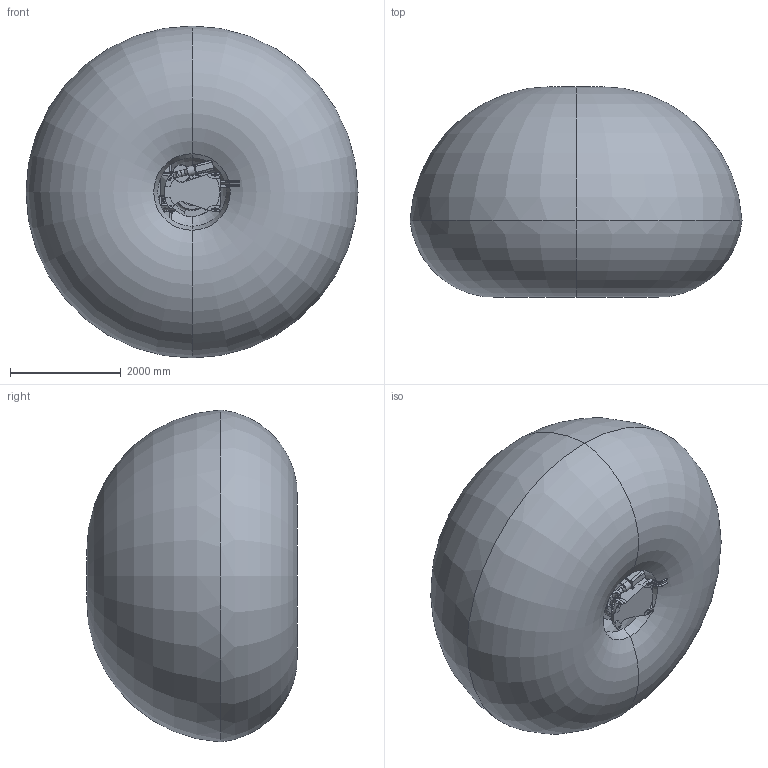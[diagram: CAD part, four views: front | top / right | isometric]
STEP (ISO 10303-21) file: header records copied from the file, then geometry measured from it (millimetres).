
FILE_DESCRIPTION (( 'STEP AP214' ), '1' );
FILE_NAME ('SMART-5 NJ4-220-3.0 (3D-STEP).STEP', '2010-11-29T11:23:42', ( '' ), ( '' ), 'SwSTEP 2.0', 'SolidWorks 2007', '' );
FILE_SCHEMA (( 'AUTOMOTIVE_DESIGN' ));
Length unit declared in the file: millimetre
Products named in the file (18): SMART-5 NJ4-220-3.0 (3D-STEP); SMART-5 NJ4-220-3.0_p01; SMART-5 NJ4-220-3.0_p05; SMART-5 NJ4-220-3.0_p04; SMART-5 NJ4-220-3.0_p03; SMART-5 NJ4-220-3.0_p02; SMART-5 NJ4-220-3.0_p08; SMART-5 NJ4-220-3.0_p07; SMART-5 NJ4-220-3.0_p06; SMART-5 NJ4-220-3.0_p12; SMART-5 NJ4-220-3.0_p11; SMART-5 NJ4-220-3.0_p10; SMART-5 NJ4-220-3.0_p09; SMART-5 NJ4-220-3.0_CR82350051_SM; SMART-5 NJ4-220-3.0_CR82350090_SM; SMART-5 NJ4-220-3.0_p13-2; SMART-5 NJ4-220-3.0_p13-1; Operation Area SMART-5 NJ4-220-3.0
Assembly tree (21 placements, depth 2):
  SMART-5 NJ4-220-3.0 (3D-STEP)
    SMART-5 NJ4-220-3.0_p13-2
    SMART-5 NJ4-220-3.0_p08
    SMART-5 NJ4-220-3.0_p07
    SMART-5 NJ4-220-3.0_p05
    SMART-5 NJ4-220-3.0_p02
    Operation Area SMART-5 NJ4-220-3.0
    SMART-5 NJ4-220-3.0_CR82350090_SM  x3
    SMART-5 NJ4-220-3.0_p03
    SMART-5 NJ4-220-3.0_p01
    SMART-5 NJ4-220-3.0_p04
    SMART-5 NJ4-220-3.0_CR82350051_SM  x3
    SMART-5 NJ4-220-3.0_p12
    SMART-5 NJ4-220-3.0_p10
    SMART-5 NJ4-220-3.0_p06
    SMART-5 NJ4-220-3.0_p13-1
    SMART-5 NJ4-220-3.0_p11
    SMART-5 NJ4-220-3.0_p09
Bounding box: 6004.61 x 3807.93 x 6004.61 mm (x, y, z)
Volume: 69584339306.6 mm3; surface area: 131338107 mm2
Topology: 21 solids, 49 shells, 5200 faces, 13581 edges, 8739 vertices
Faces by surface type: plane 2200, cylinder 1945, bspline 611, torus 258, cone 168, sphere 18
Entity records: 199400 total; most frequent: CARTESIAN_POINT 74282, ORIENTED_EDGE 24890, DIRECTION 22648, EDGE_CURVE 12445, AXIS2_PLACEMENT_3D 8377, VERTEX_POINT 8060, LINE 5894, VECTOR 5894
